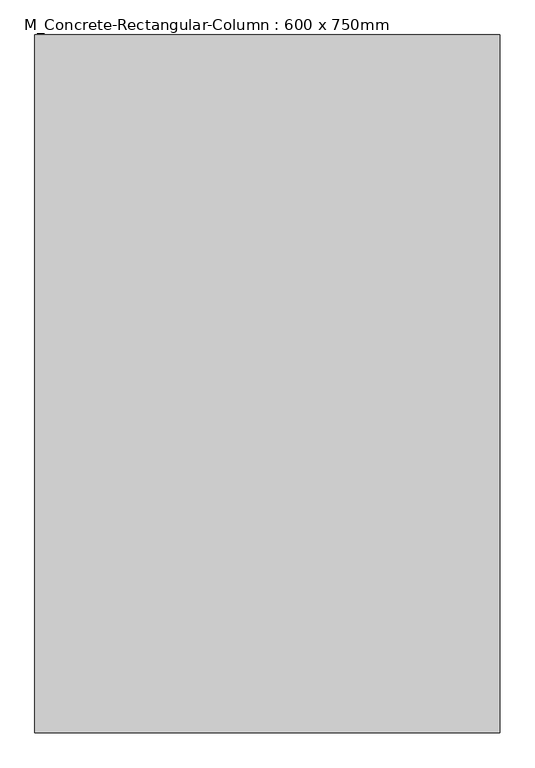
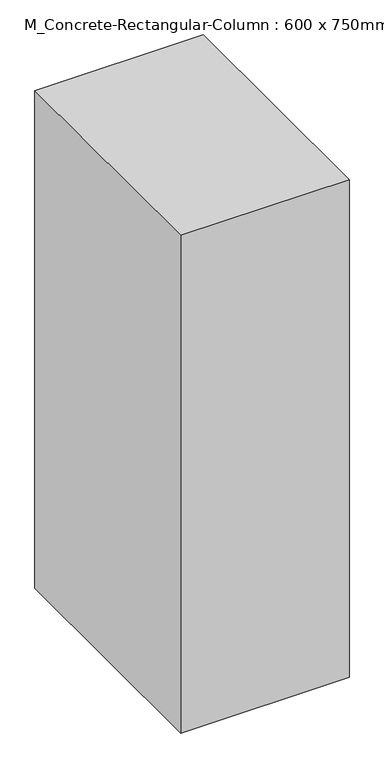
"""IFC4 building model written with IfcOpenShell, lengths in millimetres: column geometry, M_Concrete-Rectangular-Column : 600 x 750mm."""

from ifc_helpers import new_model, si_unit, frame, origin, place, context, project, spatial, polyline, outline, extrude, source, transform, mapped, element, save


def m_concrete_rectangular_column_600_x_750mm_70c17375(model_context):
    return source(origin(), model_context, "Body", "SweptSolid", [
        extrude(outline(polyline([(400.0, 600.0), (400.0, -600.0), (-400.0, -600.0), (-400.0, 600.0), (400.0, 600.0)])), frame((0.0, 0.0, 2700.0), z_axis=(0.0, 0.0, 1.0), x_axis=(1.0, 0.0, 0.0)), (0.0, 0.0, 1.0), 2500.0),
    ])


if __name__ == "__main__":
    model = new_model("IFC4")
    model_context = context("Model", 3, world=origin())
    ifc_project = project(units=[si_unit("LENGTHUNIT", "METRE", prefix="MILLI")], contexts=[model_context])
    site = spatial("IfcSite", under=ifc_project)
    building = spatial("IfcBuilding", under=site)
    placement = place(None, origin())
    m_concrete_rectangular_column_600_x_750mm_shape = m_concrete_rectangular_column_600_x_750mm_70c17375(model_context)
    element("IfcColumn", 1, ObjectType="M_Concrete-Rectangular-Column : 600 x 750mm", at=placement, inside=building, context=model_context, shape_type="MappedRepresentation", body=[
        mapped(m_concrete_rectangular_column_600_x_750mm_shape, transform((0.0, 0.0, 0.0), x_axis=(1.0, 0.0, 0.0), y_axis=(0.0, 1.0, 0.0), z_axis=(0.0, 0.0, 1.0))),
    ])
    save(model, "model.ifc")
